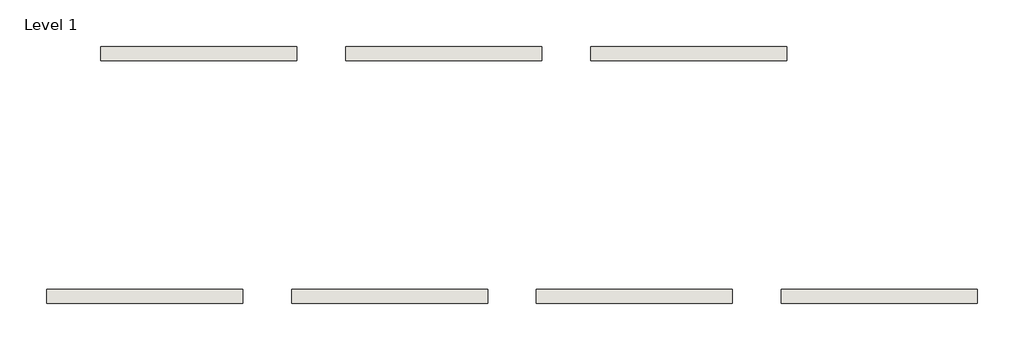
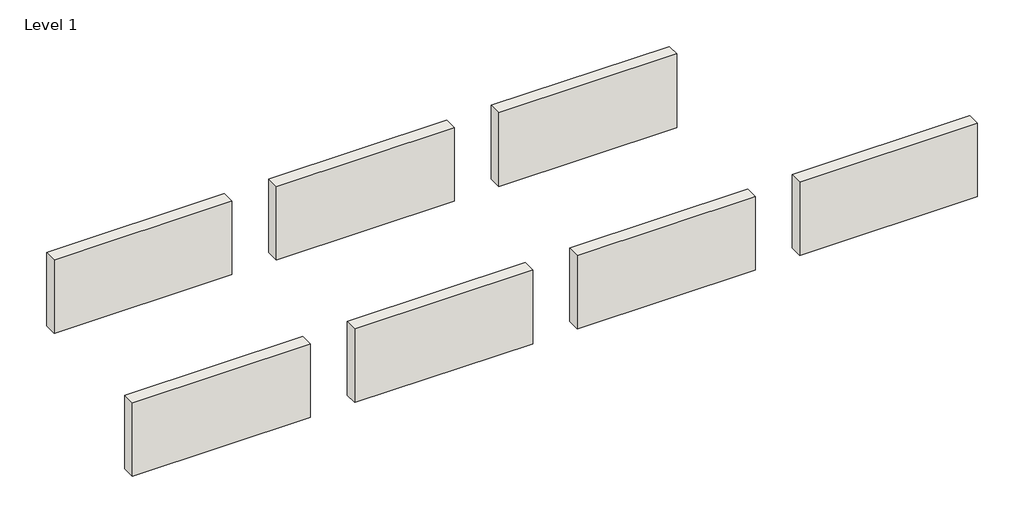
# One storey: 7 walls.
"""IFC4 building model written with IfcOpenShell, lengths in millimetres."""

import ifcopenshell
import ifcopenshell.guid

model = None  # the IFC model being written
_history = None  # IfcOwnerHistory: only IFC2X3 demands one
_inside = {}  # id of a spatial element -> (the spatial element, [elements in it])
_under = {}  # id of a project, library or spatial element -> (it, [spatial elements below it])
_declared = {}  # id of a project -> (the project, [libraries it declares])
_typed = {}  # id of a type object -> (the type object, [elements of that type])
_made_of = {}  # id of a material, layer set ... -> (it, [elements and type objects made of it])


def new_model(schema):
    """Start an empty IFC model of exactly this schema.

    Asked for "IFC4X3", IfcOpenShell would pick the latest addendum, in which some entities
    have other attributes; the version numbers below select the first issue.
    IFC2X3 requires an IfcOwnerHistory on every rooted entity: one is made here for all.
    """
    global model, _history
    if schema == "IFC4X3":
        model = ifcopenshell.file(schema_version=(4, 3, 0, 0))
    else:
        model = ifcopenshell.file(schema=schema)
    _inside.clear()
    _under.clear()
    _declared.clear()
    _typed.clear()
    _made_of.clear()
    _history = None
    if model.schema == "IFC2X3":
        org = make("IfcOrganization", Name="unknown")
        user = make(
            "IfcPersonAndOrganization",
            ThePerson=make("IfcPerson", FamilyName="unknown"),
            TheOrganization=org,
        )
        app = make(
            "IfcApplication",
            ApplicationDeveloper=org,
            Version="unknown",
            ApplicationFullName="unknown",
            ApplicationIdentifier="unknown",
        )
        _history = make(
            "IfcOwnerHistory",
            OwningUser=user,
            OwningApplication=app,
            ChangeAction="ADDED",
            CreationDate=0,
        )
    return model


def make(cls, **values):
    """One entity of the class cls with the attributes given. An attribute that is None is left unset."""
    return model.create_entity(
        cls, **{name: value for name, value in values.items() if value is not None}
    )


def rooted(cls, **values):
    """An entity with a GlobalId (a new one), such as an element, a storey or a relation."""
    return make(cls, GlobalId=ifcopenshell.guid.new(), OwnerHistory=_history, **values)


def si_unit(unit_type, name, prefix=None):
    """IfcSIUnit, for example si_unit("LENGTHUNIT", "METRE", prefix="MILLI")."""
    return make("IfcSIUnit", UnitType=unit_type, Prefix=prefix, Name=name)


def assignment(units):
    """IfcUnitAssignment: the units of a project."""
    return None if units is None else make("IfcUnitAssignment", Units=units)


def point(xyz):
    """IfcCartesianPoint."""
    return None if xyz is None else make("IfcCartesianPoint", Coordinates=xyz)


def direction(xyz):
    """IfcDirection."""
    return None if xyz is None else make("IfcDirection", DirectionRatios=xyz)


def frame(location, z_axis=None, x_axis=None):
    """IfcAxis2Placement3D, a coordinate frame: its origin and axes. An axis left out is left unset."""
    return make(
        "IfcAxis2Placement3D",
        Location=point(location),
        Axis=direction(z_axis),
        RefDirection=direction(x_axis),
    )


def origin():
    """The frame at (0, 0, 0) with its axes left unset."""
    return frame((0.0, 0.0, 0.0))


def origin_with_axes():
    """The frame at (0, 0, 0) with the z axis (0, 0, 1) and the x axis (1, 0, 0) written out."""
    return frame((0.0, 0.0, 0.0), z_axis=(0.0, 0.0, 1.0), x_axis=(1.0, 0.0, 0.0))


def place(relative_to, where):
    """IfcLocalPlacement: puts the frame where relative to a parent placement (None: the world)."""
    return make(
        "IfcLocalPlacement", PlacementRelTo=relative_to, RelativePlacement=where
    )


def context(
    kind, dimensions, precision=None, world=None, true_north=None, identifier=None
):
    """IfcGeometricRepresentationContext, for example the 3D "Model" context."""
    return make(
        "IfcGeometricRepresentationContext",
        ContextIdentifier=identifier,
        ContextType=kind,
        CoordinateSpaceDimension=dimensions,
        Precision=precision,
        WorldCoordinateSystem=world,
        TrueNorth=true_north,
    )


def project(units=None, contexts=None):
    """IfcProject with its units and contexts."""
    return rooted(
        "IfcProject",
        Name="project",
        RepresentationContexts=contexts,
        UnitsInContext=assignment(units),
    )


def spatial(cls, under=None, at=None, **own):
    """A site, building, storey or space (cls), placed at a placement, below another one or the project."""
    s = rooted(cls, ObjectPlacement=at, **own)
    if under is not None:
        _under.setdefault(under.id(), (under, []))[1].append(s)
    return s


def polyline(points):
    """IfcPolyline through the points."""
    return make("IfcPolyline", Points=[point(p) for p in points])


def outline(outer, holes=None, kind="AREA"):
    """IfcArbitraryClosedProfileDef: a profile drawn as a closed curve; with holes, ...WithVoids."""
    if holes is None:
        return make("IfcArbitraryClosedProfileDef", ProfileType=kind, OuterCurve=outer)
    return make(
        "IfcArbitraryProfileDefWithVoids",
        ProfileType=kind,
        OuterCurve=outer,
        InnerCurves=holes,
    )


def extrude(swept, where, along, depth):
    """IfcExtrudedAreaSolid: the profile swept, set in the frame where, extruded along a direction by depth."""
    return make(
        "IfcExtrudedAreaSolid",
        SweptArea=swept,
        Position=where,
        ExtrudedDirection=direction(along),
        Depth=depth,
    )


def shape(context_of_items, identifier, shape_type, items):
    """IfcShapeRepresentation: the items that make up one representation, for example the "Body"."""
    return make(
        "IfcShapeRepresentation",
        ContextOfItems=context_of_items,
        RepresentationIdentifier=identifier,
        RepresentationType=shape_type,
        Items=items,
    )


def made_of(thing, what):
    """Note that an element or type object is made of a material, layer set ...; save() writes the relation."""
    if what is not None:
        _made_of.setdefault(what.id(), (what, []))[1].append(thing)
    return thing


def element(
    cls,
    number,
    at=None,
    inside=None,
    cuts=None,
    type_object=None,
    material=None,
    context=None,
    identifier="Body",
    shape_type=None,
    held_by="IfcProductDefinitionShape",
    body=None,
    shapes=None,
    **own,
):
    """One element of the class cls, such as IfcWall. Its Tag is "e" and its number.

    at: its placement. inside: the storey or other place that contains it. cuts: it is an
    opening in that element (IfcRelVoidsElement). A single representation is given by context,
    identifier, shape_type and body (its items); several are given by shapes. held_by: the class
    of the entity that holds the representations. save() writes the other relations.
    """
    e = rooted(cls, Tag="e%d" % number, ObjectPlacement=at, **own)
    if body is not None:
        shapes = [shape(context, identifier, shape_type, body)]
    if shapes is not None:
        e.Representation = make(held_by, Representations=shapes)
    if inside is not None:
        _inside.setdefault(inside.id(), (inside, []))[1].append(e)
    if cuts is not None:
        rooted(
            "IfcRelVoidsElement", RelatingBuildingElement=cuts, RelatedOpeningElement=e
        )
    if type_object is not None:
        _typed.setdefault(type_object.id(), (type_object, []))[1].append(e)
    return made_of(e, material)


def aggregate(whole, parts):
    """IfcRelAggregates: a whole, such as a stair, and the parts it consists of."""
    return rooted("IfcRelAggregates", RelatingObject=whole, RelatedObjects=parts)


def save(model, path):
    """Write the relations noted so far, then the file.

    IfcRelAggregates (storeys below a building ...), IfcRelContainedInSpatialStructure (elements
    in a storey), IfcRelDefinesByType, IfcRelAssociatesMaterial and IfcRelDeclares: one each for
    every whole, place, type object, material and project.
    """
    for whole, parts in _under.values():
        aggregate(whole, parts)
    for where, things in _inside.values():
        rooted(
            "IfcRelContainedInSpatialStructure",
            RelatedElements=things,
            RelatingStructure=where,
        )
    for kind, things in _typed.values():
        rooted("IfcRelDefinesByType", RelatedObjects=things, RelatingType=kind)
    for what, things in _made_of.values():
        rooted("IfcRelAssociatesMaterial", RelatedObjects=things, RelatingMaterial=what)
    for by, libraries in _declared.values():
        rooted("IfcRelDeclares", RelatingContext=by, RelatedDefinitions=libraries)
    model.write(path)


model = new_model("IFC4")

# Units and contexts
model_context = context("Model", 3, world=origin())
ifc_project = project(units=[si_unit("LENGTHUNIT", "METRE", prefix="MILLI")], contexts=[model_context])

# Site, building, storey
site = spatial("IfcSite", under=ifc_project)
building = spatial("IfcBuilding", under=site)
storey = spatial("IfcBuildingStorey", under=building, Name="Level 1", Elevation=0.0)

# Walls
placement = place(None, origin())
element("IfcWall", 1, ObjectType="Brick - Domino - 0320-HR - General Shale Brick", at=placement, inside=storey, context=model_context, shape_type="SweptSolid", body=[
    extrude(outline(polyline([(45443.1878812, -15899.7786188), (46662.3878812, -15899.7786188), (46662.3878812, -15988.6786188), (45443.1878812, -15988.6786188), (45443.1878812, -15899.7786188)])), origin_with_axes(), (0.0, 0.0, 1.0), 533.4),
])
element("IfcWall", 2, ObjectType="Brick - Domino Ironspot - 0320-HR - General Shale Brick", at=placement, inside=storey, context=model_context, shape_type="SweptSolid", body=[
    extrude(outline(polyline([(46967.1878812, -15899.7786188), (48186.3878812, -15899.7786188), (48186.3878812, -15988.6786188), (46967.1878812, -15988.6786188), (46967.1878812, -15899.7786188)])), origin_with_axes(), (0.0, 0.0, 1.0), 533.4),
])
element("IfcWall", 3, ObjectType="Brick - Saddle - HR - General Shale Brick", at=placement, inside=storey, context=model_context, shape_type="SweptSolid", body=[
    extrude(outline(polyline([(48491.1878812, -15899.7786188), (49710.3878812, -15899.7786188), (49710.3878812, -15988.6786188), (48491.1878812, -15988.6786188), (48491.1878812, -15899.7786188)])), origin_with_axes(), (0.0, 0.0, 1.0), 533.4),
])
element("IfcWall", 4, ObjectType="Brick - Saddle Ironspot - HR - General Shale Brick", at=placement, inside=storey, context=model_context, shape_type="SweptSolid", body=[
    extrude(outline(polyline([(50015.1878812, -15899.7786188), (51234.3878812, -15899.7786188), (51234.3878812, -15988.6786188), (50015.1878812, -15988.6786188), (50015.1878812, -15899.7786188)])), origin_with_axes(), (0.0, 0.0, 1.0), 533.4),
])
element("IfcWall", 5, ObjectType="Brick - Steel - 0320-HR - General Shale Brick", at=placement, inside=storey, context=model_context, shape_type="SweptSolid", body=[
    extrude(outline(polyline([(45779.7532248, -14388.2093715), (46998.9532248, -14388.2093715), (46998.9532248, -14477.1093715), (45779.7532248, -14477.1093715), (45779.7532248, -14388.2093715)])), origin_with_axes(), (0.0, 0.0, 1.0), 533.4),
])
element("IfcWall", 6, ObjectType="Brick - Valor - HR - General Shale Brick", at=placement, inside=storey, context=model_context, shape_type="SweptSolid", body=[
    extrude(outline(polyline([(47303.7532248, -14388.2093715), (48522.9532248, -14388.2093715), (48522.9532248, -14477.1093715), (47303.7532248, -14477.1093715), (47303.7532248, -14388.2093715)])), origin_with_axes(), (0.0, 0.0, 1.0), 533.4),
])
element("IfcWall", 7, ObjectType="Brick - Valor Ironspot - 0320-HR - General Shale Brick", at=placement, inside=storey, context=model_context, shape_type="SweptSolid", body=[
    extrude(outline(polyline([(48827.7532248, -14388.2093715), (50046.9532248, -14388.2093715), (50046.9532248, -14477.1093715), (48827.7532248, -14477.1093715), (48827.7532248, -14388.2093715)])), origin_with_axes(), (0.0, 0.0, 1.0), 533.4),
])

save(model, "model.ifc")
